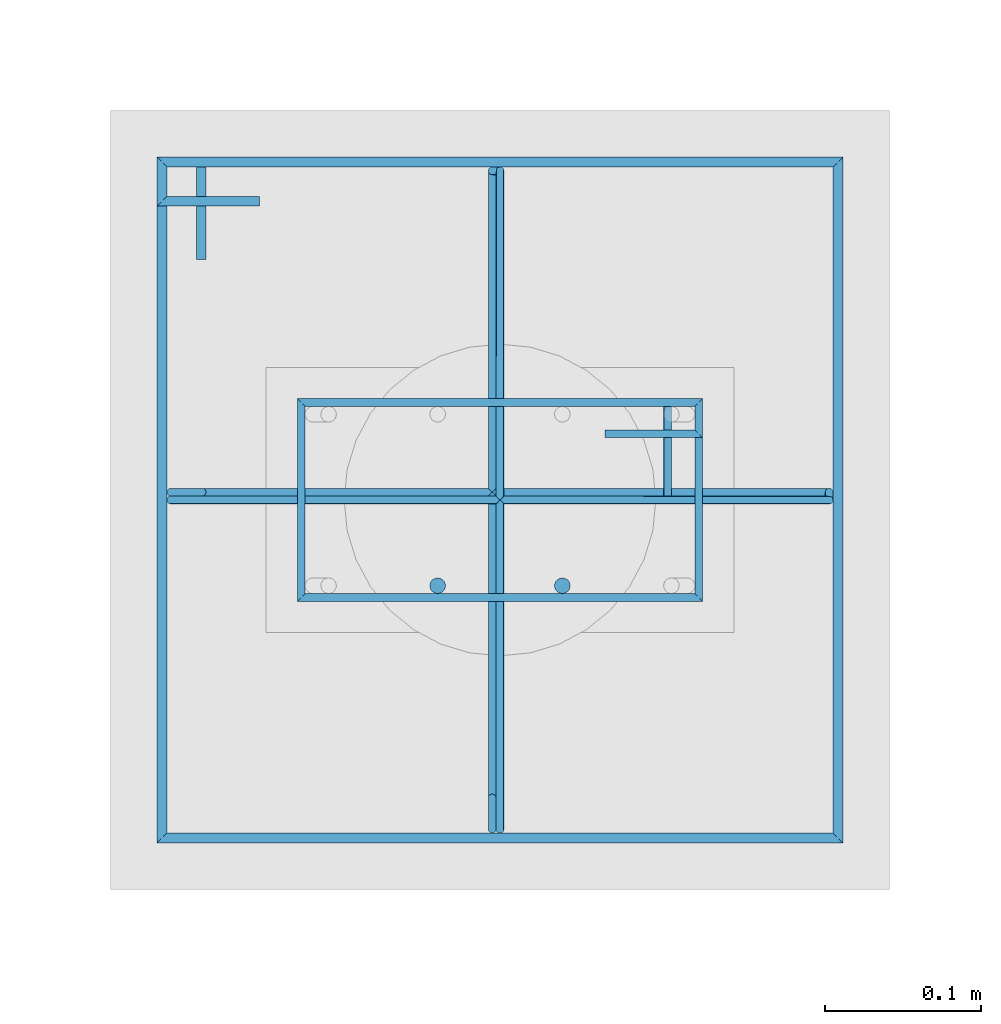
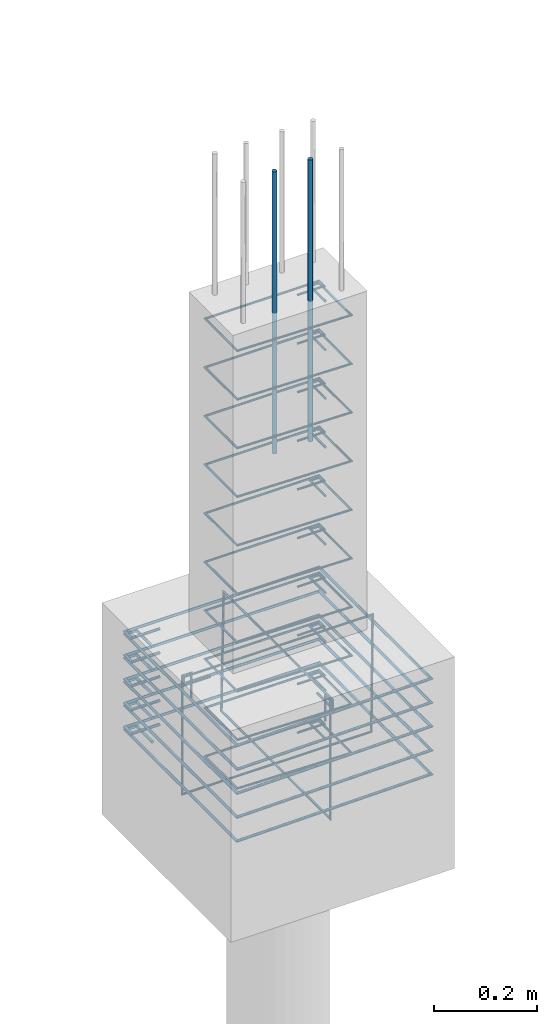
# One storey, part 108 of 119: 19 reinforcing bars.
"""IFC4 building model written with IfcOpenShell, lengths in centimetres."""

from ifc_helpers import new_model, entity, si_unit, derived_unit, frame, origin_with_axes, place, context, project, spatial, source, transform, mapped, element, save


model = new_model("IFC4")

# Units and contexts
model_context = context("Model", 3, precision=1e-05, world=origin_with_axes(), identifier="Body")
ifc_project = project(units=[si_unit("LENGTHUNIT", "METRE", prefix="CENTI"), si_unit("VOLUMEUNIT", "CUBIC_METRE"), si_unit("AREAUNIT", "SQUARE_METRE"), si_unit("POWERUNIT", "WATT"), si_unit("LUMINOUSFLUXUNIT", "LUMEN"), si_unit("ELECTRICCURRENTUNIT", "AMPERE"), si_unit("PRESSUREUNIT", "PASCAL", prefix="KILO"), si_unit("MASSUNIT", "GRAM", prefix="KILO"), si_unit("PLANEANGLEUNIT", "RADIAN"), derived_unit("VOLUMETRICFLOWRATEUNIT", [(si_unit("LENGTHUNIT", "METRE"), 3), (si_unit("TIMEUNIT", "SECOND"), -1)])], contexts=[model_context])

# Site, building, storey
site_placement = place(None, frame((-4000.0, 0.0, 0.0), z_axis=(0.0, 0.0, 1.0), x_axis=(1.0, 0.0, 0.0)))
site = spatial("IfcSite", under=ifc_project, at=site_placement, Name="PADRÃO")
building_placement = place(site_placement, frame((0.0, 0.0, -14.0)))
building = spatial("IfcBuilding", under=site, at=building_placement, Name="CRECHE PRÉ-ESCOLA TIPO 2")
storey_placement = place(building_placement, origin_with_axes())
storey = spatial("IfcBuildingStorey", under=building, at=storey_placement, Name="FUNDAÇÃO", CompositionType="ELEMENT", Elevation=-14.0)

# Reinforcing bars
shared_shape_1 = source(origin_with_axes(), model_context, "Body", "AdvancedSweptSolid", [
    entity("IfcSweptDiskSolid", entity("IfcCompositeCurve", [entity("IfcCompositeCurveSegment", "CONTINUOUS", True, entity("IfcPolyline", [entity("IfcCartesianPoint", [4.25, 21.75, 0.0]), entity("IfcCartesianPoint", [4.25, 27.75, 0.0])])), entity("IfcCompositeCurveSegment", "CONTINUOUS", True, entity("IfcPolyline", [entity("IfcCartesianPoint", [4.25, 27.75, 0.0]), entity("IfcCartesianPoint", [2.25, 27.75, 0.0])])), entity("IfcCompositeCurveSegment", "CONTINUOUS", True, entity("IfcPolyline", [entity("IfcCartesianPoint", [2.25, 27.75, 0.0]), entity("IfcCartesianPoint", [2.25, 2.25, 0.0])])), entity("IfcCompositeCurveSegment", "CONTINUOUS", True, entity("IfcPolyline", [entity("IfcCartesianPoint", [2.25, 2.25, 0.0]), entity("IfcCartesianPoint", [14.75, 2.25, 0.0])])), entity("IfcCompositeCurveSegment", "CONTINUOUS", True, entity("IfcPolyline", [entity("IfcCartesianPoint", [14.75, 2.25, 0.0]), entity("IfcCartesianPoint", [14.75, 27.75, -0.5])])), entity("IfcCompositeCurveSegment", "CONTINUOUS", True, entity("IfcPolyline", [entity("IfcCartesianPoint", [14.75, 27.75, -0.5]), entity("IfcCartesianPoint", [2.25, 27.75, -0.5])])), entity("IfcCompositeCurveSegment", "CONTINUOUS", True, entity("IfcPolyline", [entity("IfcCartesianPoint", [2.25, 27.75, -0.5]), entity("IfcCartesianPoint", [2.25, 25.75, -0.5])])), entity("IfcCompositeCurveSegment", "CONTINUOUS", True, entity("IfcPolyline", [entity("IfcCartesianPoint", [2.25, 25.75, -0.5]), entity("IfcCartesianPoint", [8.25, 25.75, -0.5])]))], False), 0.25),
])
for number, where, z_axis, x_axis, name in (
    (1, (2251.76, 3993.5, -17.25), (0.0, 0.0, 1.0), (0.0, -1.0, 0.0), "P26 - Estribo"),
    (2, (2251.76, 3993.5, -5.75), (0.0, 0.0, 1.0), (0.0, -1.0, 0.0), "P26 - Estribo"),
    (3, (2251.76, 3993.5, -109.25), (0.0, 0.0, 1.0), (0.0, -1.0, 0.0), "P26 - Estribo"),
    (4, (2251.76, 3993.5, -86.25), (0.0, 0.0, 1.0), (0.0, -1.0, 0.0), "P26 - Estribo"),
    (5, (2251.76, 3993.5, -74.75), (0.0, 0.0, 1.0), (0.0, -1.0, 0.0), "P26 - Estribo"),
    (6, (2251.76, 3993.5, -63.25), (0.0, 0.0, 1.0), (0.0, -1.0, 0.0), "P26 - Estribo"),
    (7, (2251.76, 3993.5, -97.75), (0.0, 0.0, 1.0), (0.0, -1.0, 0.0), "P26 - Estribo"),
    (8, (2251.76, 3993.5, -28.75), (0.0, 0.0, 1.0), (0.0, -1.0, 0.0), "P26 - Estribo"),
    (9, (2251.76, 3993.5, -40.25), (0.0, 0.0, 1.0), (0.0, -1.0, 0.0), "P26 - Estribo"),
    (10, (2251.76, 3993.5, -51.75), (0.0, 0.0, 1.0), (0.0, -1.0, 0.0), "P26 - Estribo"),
):
    element("IfcReinforcingBar", number, at=place(storey_placement, frame(where, z_axis=z_axis, x_axis=x_axis)), inside=storey, Name=name, BarLength=0.0, CrossSectionArea=1.9634954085e-05, NominalDiameter=0.5, PredefinedType="MAIN", context=model_context, shape_type="MappedRepresentation", body=[
        mapped(shared_shape_1, transform((0.0, 0.0, 0.0), scale=1.0)),
    ])
shared_shape_2 = source(origin_with_axes(), model_context, "Body", "AdvancedSweptSolid", [
    entity("IfcSweptDiskSolid", entity("IfcCompositeCurve", [entity("IfcCompositeCurveSegment", "CONTINUOUS", True, entity("IfcPolyline", [entity("IfcCartesianPoint", [2247.595, 4000.425, 0.0]), entity("IfcCartesianPoint", [2247.595, 4006.685, 0.0])])), entity("IfcCompositeCurveSegment", "CONTINUOUS", True, entity("IfcPolyline", [entity("IfcCartesianPoint", [2247.595, 4006.685, 0.0]), entity("IfcCartesianPoint", [2245.075, 4006.685, 0.0])])), entity("IfcCompositeCurveSegment", "CONTINUOUS", True, entity("IfcPolyline", [entity("IfcCartesianPoint", [2245.075, 4006.685, 0.0]), entity("IfcCartesianPoint", [2245.075, 3963.315, 0.0])])), entity("IfcCompositeCurveSegment", "CONTINUOUS", True, entity("IfcPolyline", [entity("IfcCartesianPoint", [2245.075, 3963.315, 0.0]), entity("IfcCartesianPoint", [2288.445, 3963.315, 0.63])])), entity("IfcCompositeCurveSegment", "CONTINUOUS", True, entity("IfcPolyline", [entity("IfcCartesianPoint", [2288.445, 3963.315, 0.63]), entity("IfcCartesianPoint", [2288.445, 4006.685, 0.63])])), entity("IfcCompositeCurveSegment", "CONTINUOUS", True, entity("IfcPolyline", [entity("IfcCartesianPoint", [2288.445, 4006.685, 0.63]), entity("IfcCartesianPoint", [2245.075, 4006.685, 0.63])])), entity("IfcCompositeCurveSegment", "CONTINUOUS", True, entity("IfcPolyline", [entity("IfcCartesianPoint", [2245.075, 4006.685, 0.63]), entity("IfcCartesianPoint", [2245.075, 4004.165, 0.63])])), entity("IfcCompositeCurveSegment", "CONTINUOUS", True, entity("IfcPolyline", [entity("IfcCartesianPoint", [2245.075, 4004.165, 0.63]), entity("IfcCartesianPoint", [2251.335, 4004.165, 0.63])]))], False), 0.315),
])
for number, where, z_axis, x_axis, name in (
    (11, (0.0, 0.0, -97.875), (0.0, 0.0, 1.0), (1.0, 0.0, 0.0), "P26 - Blocos (estribos)"),
    (12, (0.0, 0.0, -103.525), (0.0, 0.0, 1.0), (1.0, 0.0, 0.0), "P26 - Blocos (estribos)"),
    (13, (0.0, 0.0, -92.225), (0.0, 0.0, 1.0), (1.0, 0.0, 0.0), "P26 - Blocos (estribos)"),
    (14, (0.0, 0.0, -86.575), (0.0, 0.0, 1.0), (1.0, 0.0, 0.0), "P26 - Blocos (estribos)"),
    (15, (0.0, 0.0, -109.175), (0.0, 0.0, 1.0), (1.0, 0.0, 0.0), "P26 - Blocos (estribos)"),
):
    element("IfcReinforcingBar", number, at=place(storey_placement, frame(where, z_axis=z_axis, x_axis=x_axis)), inside=storey, Name=name, BarLength=0.0, CrossSectionArea=3.1172453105e-05, NominalDiameter=0.63, PredefinedType="MAIN", context=model_context, shape_type="MappedRepresentation", body=[
        mapped(shared_shape_2, transform((0.0, 0.0, 0.0), scale=1.0)),
    ])
shared_shape_3 = source(origin_with_axes(), model_context, "Body", "AdvancedSweptSolid", [
    entity("IfcSweptDiskSolid", entity("IfcCompositeCurve", [entity("IfcCompositeCurveSegment", "CONTINUOUS", True, entity("IfcPolyline", [entity("IfcCartesianPoint", [-15.12, -12.0, 0.0]), entity("IfcCartesianPoint", [-21.12, -12.0, 0.0])])), entity("IfcCompositeCurveSegment", "CONTINUOUS", True, entity("IfcPolyline", [entity("IfcCartesianPoint", [-21.12, -12.0, 0.0]), entity("IfcCartesianPoint", [-21.12, -14.0, 0.0])])), entity("IfcCompositeCurveSegment", "CONTINUOUS", True, entity("IfcPolyline", [entity("IfcCartesianPoint", [-21.12, -14.0, 0.0]), entity("IfcCartesianPoint", [21.12, -14.0, 0.0])])), entity("IfcCompositeCurveSegment", "CONTINUOUS", True, entity("IfcPolyline", [entity("IfcCartesianPoint", [21.12, -14.0, 0.0]), entity("IfcCartesianPoint", [21.12, 14.0, 0.5])])), entity("IfcCompositeCurveSegment", "CONTINUOUS", True, entity("IfcPolyline", [entity("IfcCartesianPoint", [21.12, 14.0, 0.5]), entity("IfcCartesianPoint", [-21.12, 14.0, 0.5])])), entity("IfcCompositeCurveSegment", "CONTINUOUS", True, entity("IfcPolyline", [entity("IfcCartesianPoint", [-21.12, 14.0, 0.5]), entity("IfcCartesianPoint", [-21.12, -14.0, 0.5])])), entity("IfcCompositeCurveSegment", "CONTINUOUS", True, entity("IfcPolyline", [entity("IfcCartesianPoint", [-21.12, -14.0, 0.5]), entity("IfcCartesianPoint", [-19.12, -14.0, 0.5])])), entity("IfcCompositeCurveSegment", "CONTINUOUS", True, entity("IfcPolyline", [entity("IfcCartesianPoint", [-19.12, -14.0, 0.5]), entity("IfcCartesianPoint", [-19.12, -8.0, 0.5])]))], False), 0.25),
])
reinforcing_bar_1_placement = place(storey_placement, frame((2266.76, 3985.0, -97.75), z_axis=(0.0, 1.0, 0.0), x_axis=(1.0, 0.0, 0.0)))
element("IfcReinforcingBar", 16, at=reinforcing_bar_1_placement, inside=storey, Name="P26 - Blocos (estribos)", BarLength=0.0, CrossSectionArea=1.9634954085e-05, NominalDiameter=0.5, PredefinedType="MAIN", context=model_context, shape_type="MappedRepresentation", body=[
    mapped(shared_shape_3, transform((0.0, 0.0, 0.0), scale=1.0)),
])
shared_shape_4 = source(origin_with_axes(), model_context, "Body", "AdvancedSweptSolid", [
    entity("IfcSweptDiskSolid", entity("IfcCompositeCurve", [entity("IfcCompositeCurveSegment", "CONTINUOUS", True, entity("IfcPolyline", [entity("IfcCartesianPoint", [-15.12, -12.0, 0.0]), entity("IfcCartesianPoint", [-21.12, -12.0, 0.0])])), entity("IfcCompositeCurveSegment", "CONTINUOUS", True, entity("IfcPolyline", [entity("IfcCartesianPoint", [-21.12, -12.0, 0.0]), entity("IfcCartesianPoint", [-21.12, -14.0, 0.0])])), entity("IfcCompositeCurveSegment", "CONTINUOUS", True, entity("IfcPolyline", [entity("IfcCartesianPoint", [-21.12, -14.0, 0.0]), entity("IfcCartesianPoint", [21.12, -14.0, 0.0])])), entity("IfcCompositeCurveSegment", "CONTINUOUS", True, entity("IfcPolyline", [entity("IfcCartesianPoint", [21.12, -14.0, 0.0]), entity("IfcCartesianPoint", [21.12, 14.0, 0.5])])), entity("IfcCompositeCurveSegment", "CONTINUOUS", True, entity("IfcPolyline", [entity("IfcCartesianPoint", [21.12, 14.0, 0.5]), entity("IfcCartesianPoint", [-21.12, 14.0, 0.5])])), entity("IfcCompositeCurveSegment", "CONTINUOUS", True, entity("IfcPolyline", [entity("IfcCartesianPoint", [-21.12, 14.0, 0.5]), entity("IfcCartesianPoint", [-21.12, -14.0, 0.5])])), entity("IfcCompositeCurveSegment", "CONTINUOUS", True, entity("IfcPolyline", [entity("IfcCartesianPoint", [-21.12, -14.0, 0.5]), entity("IfcCartesianPoint", [-19.12, -14.0, 0.5])])), entity("IfcCompositeCurveSegment", "CONTINUOUS", True, entity("IfcPolyline", [entity("IfcCartesianPoint", [-19.12, -14.0, 0.5]), entity("IfcCartesianPoint", [-19.12, -8.0, 0.5])]))], False), 0.25),
])
reinforcing_bar_2_placement = place(storey_placement, frame((2266.76, 3985.0, -97.75), z_axis=(-1.0, 0.0, 0.0), x_axis=(0.0, 1.0, 0.0)))
element("IfcReinforcingBar", 17, at=reinforcing_bar_2_placement, inside=storey, Name="P26 - Blocos (estribos)", BarLength=0.0, CrossSectionArea=1.9634954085e-05, NominalDiameter=0.5, PredefinedType="MAIN", context=model_context, shape_type="MappedRepresentation", body=[
    mapped(shared_shape_4, transform((0.0, 0.0, 0.0), scale=1.0)),
])
for number, where, z_axis, x_axis, name in (
    (18, (2270.76, 3979.5, 33.3573001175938), (0.0, 0.0, 1.0), (1.0, 0.0, 0.0), "P26 - Longitudinal"),
    (19, (2262.76, 3979.5, 33.3573001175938), (0.0, 0.0, 1.0), (1.0, 0.0, 0.0), "P26 - Longitudinal"),
):
    element("IfcReinforcingBar", number, at=place(storey_placement, frame(where, z_axis=z_axis, x_axis=x_axis)), inside=storey, Name=name, BarLength=0.0, CrossSectionArea=7.853981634e-05, NominalDiameter=1.0, PredefinedType="MAIN", context=model_context, shape_type="AdvancedSweptSolid", body=[
        entity("IfcSweptDiskSolid", entity("IfcCompositeCurve", [entity("IfcCompositeCurveSegment", "CONTINUOUS", True, entity("IfcPolyline", [entity("IfcCartesianPoint", [0.0, 0.0, -66.7146002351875]), entity("IfcCartesianPoint", [0.0, 0.0, 0.0])]))], False), 0.5),
    ])

save(model, "model.ifc")
